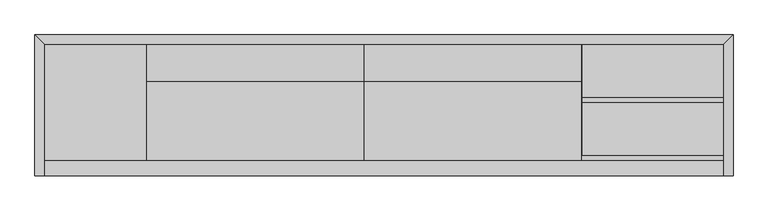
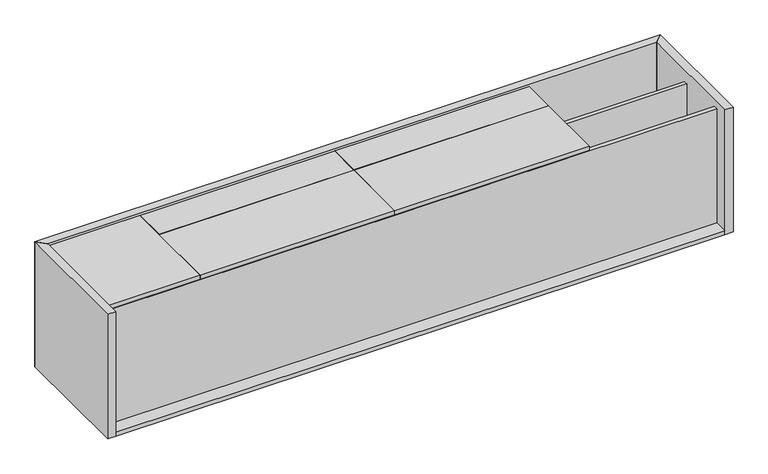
"""IFC4 building model written with IfcOpenShell, lengths in millimetres: proxy geometry, AERO^OFFICE 4_120 CREDENZA LEFT-PARTS SOLID."""

from ifc_helpers import new_model, si_unit, frame, origin, place, context, project, spatial, polyline, outline, extrude, source, transform, mapped, element, save


def generic_models_5e1e4048(model_context):
    return source(origin(), model_context, "Body", "SweptSolid", [
        extrude(outline(polyline([(476.25, -463.55), (457.2, -463.55), (457.2, 0.0), (476.25, 0.0), (476.25, -463.55)])), frame((0.0, 0.0, -590.55), z_axis=(0.0, 0.0, 1.0), x_axis=(1.0, 0.0, 0.0)), (0.0, 0.0, 1.0), 558.8),
        extrude(outline(polyline([(1366.440625, 9.525), (2266.15625, 9.525), (2266.15625, -153.19375), (1366.440625, -153.19375), (1366.440625, 9.525)])), frame((0.0, 0.0, -28.575), z_axis=(0.0, 0.0, 1.0), x_axis=(1.0, 0.0, 0.0)), (0.0, 0.0, 1.0), 19.05),
        extrude(outline(polyline([(2857.5, -463.55), (2857.5, -482.6), (38.1, -482.6), (38.1, -463.55), (2857.5, -463.55)])), frame((0.0, 0.0, -590.55), z_axis=(0.0, 0.0, 1.0), x_axis=(1.0, 0.0, 0.0)), (0.0, 0.0, 1.0), 558.8),
        extrude(outline(polyline([(0.0, 38.1), (38.1, 0.0), (38.1, -546.1), (0.0, -546.1), (0.0, 38.1)])), frame((0.0, 0.0, -609.6), z_axis=(0.0, 0.0, 1.0), x_axis=(1.0, 0.0, 0.0)), (0.0, 0.0, 1.0), 609.6),
        extrude(outline(polyline([(464.34375, -482.6), (464.34375, -155.575), (1364.059375, -155.575), (1364.059375, -482.6), (464.34375, -482.6)])), frame((0.0, 0.0, -28.575), z_axis=(0.0, 0.0, 1.0), x_axis=(1.0, 0.0, 0.0)), (0.0, 0.0, 1.0), 19.05),
        extrude(outline(polyline([(2857.5, 0.0), (2895.6, 38.1), (2895.6, -546.1), (2857.5, -546.1), (2857.5, 0.0)])), frame((0.0, 0.0, -609.6), z_axis=(0.0, 0.0, 1.0), x_axis=(1.0, 0.0, 0.0)), (0.0, 0.0, 1.0), 609.6),
        extrude(outline(polyline([(38.1, -546.1), (38.1, 0.0), (2857.5, 0.0), (2857.5, -546.1), (38.1, -546.1)])), frame((0.0, 0.0, -609.6), z_axis=(0.0, 0.0, 1.0), x_axis=(1.0, 0.0, 0.0)), (0.0, 0.0, 1.0), 19.05),
        extrude(outline(polyline([(2266.15625, -155.575), (2266.15625, -482.6), (1366.440625, -482.6), (1366.440625, -155.575), (2266.15625, -155.575)])), frame((0.0, 0.0, -28.575), z_axis=(0.0, 0.0, 1.0), x_axis=(1.0, 0.0, 0.0)), (0.0, 0.0, 1.0), 19.05),
        extrude(outline(polyline([(2266.95, -463.55), (2247.9, -463.55), (2247.9, 0.0), (2266.95, 0.0), (2266.95, -463.55)])), frame((0.0, 0.0, -590.55), z_axis=(0.0, 0.0, 1.0), x_axis=(1.0, 0.0, 0.0)), (0.0, 0.0, 1.0), 558.8),
        extrude(outline(polyline([(461.9625, 9.525), (461.9625, -482.6), (28.575, -482.6), (28.575, 9.525), (461.9625, 9.525)])), frame((0.0, 0.0, -28.575), z_axis=(0.0, 0.0, 1.0), x_axis=(1.0, 0.0, 0.0)), (0.0, 0.0, 1.0), 19.05),
        extrude(outline(polyline([(2856.70625, -241.3), (2267.74375, -241.3), (2267.74375, -222.25), (2856.70625, -222.25), (2856.70625, -241.3)])), frame((0.0, 0.0, -590.55), z_axis=(0.0, 0.0, 1.0), x_axis=(1.0, 0.0, 0.0)), (0.0, 0.0, 1.0), 533.4),
        extrude(outline(polyline([(1371.6, -463.55), (1352.55, -463.55), (1352.55, 0.0), (1371.6, 0.0), (1371.6, -463.55)])), frame((0.0, 0.0, -590.55), z_axis=(0.0, 0.0, 1.0), x_axis=(1.0, 0.0, 0.0)), (0.0, 0.0, 1.0), 558.8),
        extrude(outline(polyline([(38.1, 0.0), (0.0, 38.1), (2895.6, 38.1), (2857.5, 0.0), (38.1, 0.0)])), frame((0.0, 0.0, -609.6), z_axis=(0.0, 0.0, 1.0), x_axis=(1.0, 0.0, 0.0)), (0.0, 0.0, 1.0), 609.6),
        extrude(outline(polyline([(464.34375, 9.525), (1364.059375, 9.525), (1364.059375, -153.19375), (464.34375, -153.19375), (464.34375, 9.525)])), frame((0.0, 0.0, -28.575), z_axis=(0.0, 0.0, 1.0), x_axis=(1.0, 0.0, 0.0)), (0.0, 0.0, 1.0), 19.05),
    ])


if __name__ == "__main__":
    model = new_model("IFC4")
    model_context = context("Model", 3, world=origin())
    ifc_project = project(units=[si_unit("LENGTHUNIT", "METRE", prefix="MILLI")], contexts=[model_context])
    site = spatial("IfcSite", under=ifc_project)
    building = spatial("IfcBuilding", under=site)
    placement = place(None, origin())
    generic_models_shape = generic_models_5e1e4048(model_context)
    element("IfcBuildingElementProxy", 1, Name="AERO^OFFICE 4_120 CREDENZA LEFT-PARTS SOLID", ObjectType="AERO^OFFICE 4_120 CREDENZA LEFT-PARTS SOLID", at=placement, inside=building, context=model_context, shape_type="MappedRepresentation", body=[
        mapped(generic_models_shape, transform((0.0, 0.0, 0.0), x_axis=(1.0, 0.0, 0.0), y_axis=(0.0, 1.0, 0.0), z_axis=(0.0, 0.0, 1.0))),
    ])
    save(model, "model.ifc")
